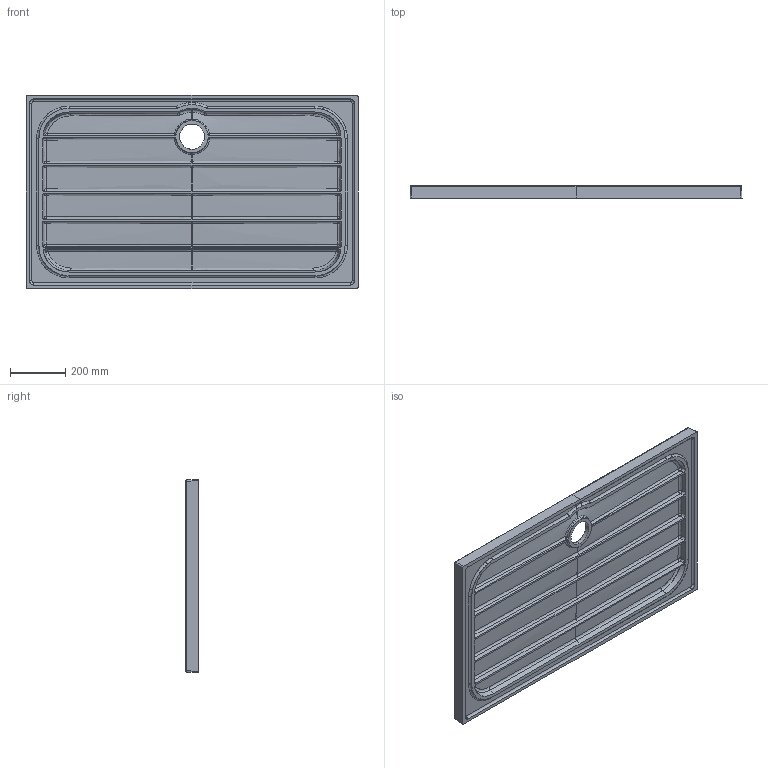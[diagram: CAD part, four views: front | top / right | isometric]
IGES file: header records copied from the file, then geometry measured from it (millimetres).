
Start section: START RECORD GO HERE.
Global section: file name: 3D_1082.igs; native system: DASSAULT SYSTEMES CATIA V5 R19 - www.3ds.com; preprocessor: CATIA Version 5 Release 19 SP 5 ; author: Luca; organization: DESKTOP-V7SON24; date: 20221025.093233; units: millimetre
Bounding box: 1203.14 x 45 x 700.14 mm (x, y, z)
Surface area: 2097119.7 mm2 (no closed solid volume)
Topology: 0 solids, 0 shells, 898 faces, 4277 edges, 4254 vertices
Faces by surface type: bspline 820, revolution 62, plane 16
